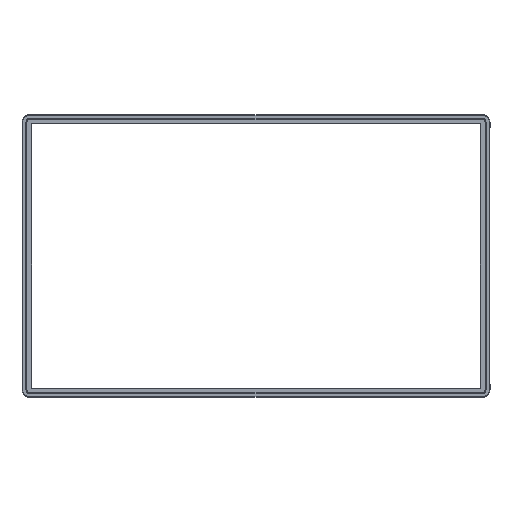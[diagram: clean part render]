
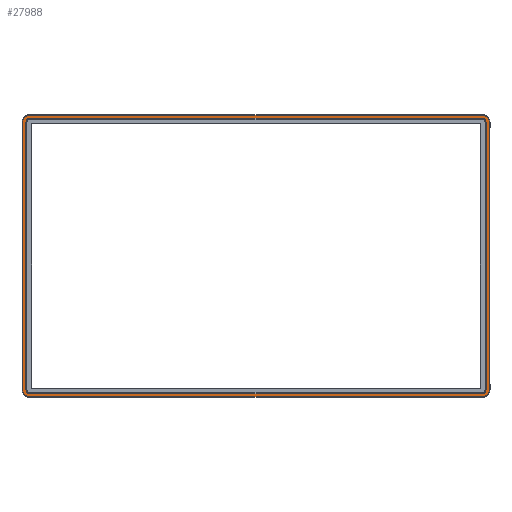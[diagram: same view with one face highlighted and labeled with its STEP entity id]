
A CAD part, top view. The second image highlights one B-rep face of the part: STEP entity #27988.
In plain terms, the highlighted planar face has unit normal (0, 0, 1).
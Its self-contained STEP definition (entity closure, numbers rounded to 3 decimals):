
#2655=CARTESIAN_POINT('',(-435.46,166.61,1.8));
#2656=DIRECTION('',(0.,0.,-1.));
#2657=DIRECTION('',(-1.,0.,0.));
#2658=AXIS2_PLACEMENT_3D('',#2655,#2656,#2657);
#2660=DIRECTION('',(0.,1.,0.));
#2661=VECTOR('',#2660,378.3);
#2662=CARTESIAN_POINT('',(-441.11,-211.69,1.8));
#2663=LINE('',#2662,#2661);
#2664=CARTESIAN_POINT('',(-435.46,-211.69,1.8));
#2665=DIRECTION('',(0.,0.,-1.));
#2666=DIRECTION('',(0.,-1.,0.));
#2667=AXIS2_PLACEMENT_3D('',#2664,#2665,#2666);
#2669=DIRECTION('',(-1.,0.,0.));
#2670=VECTOR('',#2669,639.7);
#2671=CARTESIAN_POINT('',(204.24,-217.34,1.8));
#2672=LINE('',#2671,#2670);
#2673=CARTESIAN_POINT('',(204.24,-211.69,1.8));
#2674=DIRECTION('',(0.,0.,-1.));
#2675=DIRECTION('',(1.,0.,0.));
#2676=AXIS2_PLACEMENT_3D('',#2673,#2674,#2675);
#2678=DIRECTION('',(0.,-1.,0.));
#2679=VECTOR('',#2678,378.3);
#2680=CARTESIAN_POINT('',(209.89,166.61,1.8));
#2681=LINE('',#2680,#2679);
#2682=CARTESIAN_POINT('',(204.24,166.61,1.8));
#2683=DIRECTION('',(0.,0.,-1.));
#2684=DIRECTION('',(0.,1.,0.));
#2685=AXIS2_PLACEMENT_3D('',#2682,#2683,#2684);
#2687=DIRECTION('',(1.,0.,0.));
#2688=VECTOR('',#2687,639.7);
#2689=CARTESIAN_POINT('',(-435.46,172.26,1.8));
#2690=LINE('',#2689,#2688);
#2691=CARTESIAN_POINT('',(-435.46,-211.69,1.8));
#2692=DIRECTION('',(0.,0.,-1.));
#2693=DIRECTION('',(0.,-1.,0.));
#2694=AXIS2_PLACEMENT_3D('',#2691,#2692,#2693);
#2696=CARTESIAN_POINT('',(-435.46,166.61,1.8));
#2697=DIRECTION('',(0.,0.,-1.));
#2698=DIRECTION('',(-1.,0.,0.));
#2699=AXIS2_PLACEMENT_3D('',#2696,#2697,#2698);
#2701=CARTESIAN_POINT('',(204.24,166.61,1.8));
#2702=DIRECTION('',(0.,0.,-1.));
#2703=DIRECTION('',(0.,1.,0.));
#2704=AXIS2_PLACEMENT_3D('',#2701,#2702,#2703);
#2706=CARTESIAN_POINT('',(204.24,-211.69,1.8));
#2707=DIRECTION('',(0.,0.,-1.));
#2708=DIRECTION('',(1.,0.,0.));
#2709=AXIS2_PLACEMENT_3D('',#2706,#2707,#2708);
#2715=DIRECTION('',(1.,0.,0.));
#2716=VECTOR('',#2715,639.7);
#2717=CARTESIAN_POINT('',(-435.46,-221.857,1.8));
#2718=LINE('',#2717,#2716);
#17925=DIRECTION('',(0.,1.,0.));
#17926=VECTOR('',#17925,378.3);
#17927=CARTESIAN_POINT('',(214.407,-211.69,1.8));
#17928=LINE('',#17927,#17926);
#17952=DIRECTION('',(-1.,0.,0.));
#17953=VECTOR('',#17952,639.7);
#17954=CARTESIAN_POINT('',(204.24,176.777,1.8));
#17955=LINE('',#17954,#17953);
#17975=DIRECTION('',(0.,-1.,0.));
#17976=VECTOR('',#17975,378.3);
#17977=CARTESIAN_POINT('',(-445.627,166.61,1.8));
#17978=LINE('',#17977,#17976);
#18724=CARTESIAN_POINT('',(-435.46,-221.857,1.8));
#18725=CARTESIAN_POINT('',(204.24,-221.857,1.8));
#18726=VERTEX_POINT('',#18724);
#18727=VERTEX_POINT('',#18725);
#18728=CARTESIAN_POINT('',(-445.627,-211.69,1.8));
#18729=VERTEX_POINT('',#18728);
#18730=CARTESIAN_POINT('',(-445.627,166.61,1.8));
#18731=VERTEX_POINT('',#18730);
#18732=CARTESIAN_POINT('',(-435.46,176.777,1.8));
#18733=VERTEX_POINT('',#18732);
#18734=CARTESIAN_POINT('',(204.24,176.777,1.8));
#18735=VERTEX_POINT('',#18734);
#18736=CARTESIAN_POINT('',(214.407,166.61,1.8));
#18737=VERTEX_POINT('',#18736);
#18738=CARTESIAN_POINT('',(214.407,-211.69,1.8));
#18739=VERTEX_POINT('',#18738);
#20427=CARTESIAN_POINT('',(-441.11,166.61,1.8));
#20428=CARTESIAN_POINT('',(-435.46,172.26,1.8));
#20429=VERTEX_POINT('',#20427);
#20430=VERTEX_POINT('',#20428);
#20431=CARTESIAN_POINT('',(204.24,172.26,1.8));
#20432=VERTEX_POINT('',#20431);
#20433=CARTESIAN_POINT('',(209.89,166.61,1.8));
#20434=VERTEX_POINT('',#20433);
#20435=CARTESIAN_POINT('',(209.89,-211.69,1.8));
#20436=VERTEX_POINT('',#20435);
#20437=CARTESIAN_POINT('',(204.24,-217.34,1.8));
#20438=VERTEX_POINT('',#20437);
#20439=CARTESIAN_POINT('',(-435.46,-217.34,1.8));
#20440=VERTEX_POINT('',#20439);
#20441=CARTESIAN_POINT('',(-441.11,-211.69,1.8));
#20442=VERTEX_POINT('',#20441);
#27955=CARTESIAN_POINT('',(-204.24,166.61,1.8));
#27956=DIRECTION('',(0.,0.,-1.));
#27957=DIRECTION('',(-1.,0.,0.));
#27958=AXIS2_PLACEMENT_3D('',#27955,#27956,#27957);
#27959=PLANE('',#27958);
#27961=ORIENTED_EDGE('',*,*,#27960,.F.);
#27963=ORIENTED_EDGE('',*,*,#27962,.T.);
#27965=ORIENTED_EDGE('',*,*,#27964,.F.);
#27967=ORIENTED_EDGE('',*,*,#27966,.T.);
#27969=ORIENTED_EDGE('',*,*,#27968,.F.);
#27971=ORIENTED_EDGE('',*,*,#27970,.T.);
#27973=ORIENTED_EDGE('',*,*,#27972,.F.);
#27975=ORIENTED_EDGE('',*,*,#27974,.T.);
#27976=EDGE_LOOP('',(#27961,#27963,#27965,#27967,#27969,#27971,#27973,#27975));
#27977=FACE_OUTER_BOUND('',#27976,.F.);
#27978=ORIENTED_EDGE('',*,*,#27935,.F.);
#27979=ORIENTED_EDGE('',*,*,#27948,.F.);
#27980=ORIENTED_EDGE('',*,*,#27850,.F.);
#27981=ORIENTED_EDGE('',*,*,#27865,.F.);
#27982=ORIENTED_EDGE('',*,*,#27879,.F.);
#27983=ORIENTED_EDGE('',*,*,#27893,.F.);
#27984=ORIENTED_EDGE('',*,*,#27907,.F.);
#27985=ORIENTED_EDGE('',*,*,#27921,.F.);
#27986=EDGE_LOOP('',(#27978,#27979,#27980,#27981,#27982,#27983,#27984,#27985));
#27987=FACE_BOUND('',#27986,.F.);
#2659=CIRCLE('',#2658,5.65);
#2668=CIRCLE('',#2667,5.65);
#2677=CIRCLE('',#2676,5.65);
#2686=CIRCLE('',#2685,5.65);
#2695=CIRCLE('',#2694,10.167);
#2700=CIRCLE('',#2699,10.167);
#2705=CIRCLE('',#2704,10.167);
#2710=CIRCLE('',#2709,10.167);
#27850=EDGE_CURVE('',#20440,#20442,#2668,.T.);
#27865=EDGE_CURVE('',#20438,#20440,#2672,.T.);
#27879=EDGE_CURVE('',#20436,#20438,#2677,.T.);
#27893=EDGE_CURVE('',#20434,#20436,#2681,.T.);
#27907=EDGE_CURVE('',#20432,#20434,#2686,.T.);
#27921=EDGE_CURVE('',#20430,#20432,#2690,.T.);
#27935=EDGE_CURVE('',#20429,#20430,#2659,.T.);
#27948=EDGE_CURVE('',#20442,#20429,#2663,.T.);
#27960=EDGE_CURVE('',#18726,#18727,#2718,.T.);
#27962=EDGE_CURVE('',#18726,#18729,#2695,.T.);
#27964=EDGE_CURVE('',#18731,#18729,#17978,.T.);
#27966=EDGE_CURVE('',#18731,#18733,#2700,.T.);
#27968=EDGE_CURVE('',#18735,#18733,#17955,.T.);
#27970=EDGE_CURVE('',#18735,#18737,#2705,.T.);
#27972=EDGE_CURVE('',#18739,#18737,#17928,.T.);
#27974=EDGE_CURVE('',#18739,#18727,#2710,.T.);
#27988=ADVANCED_FACE('',(#27977,#27987),#27959,.F.);
